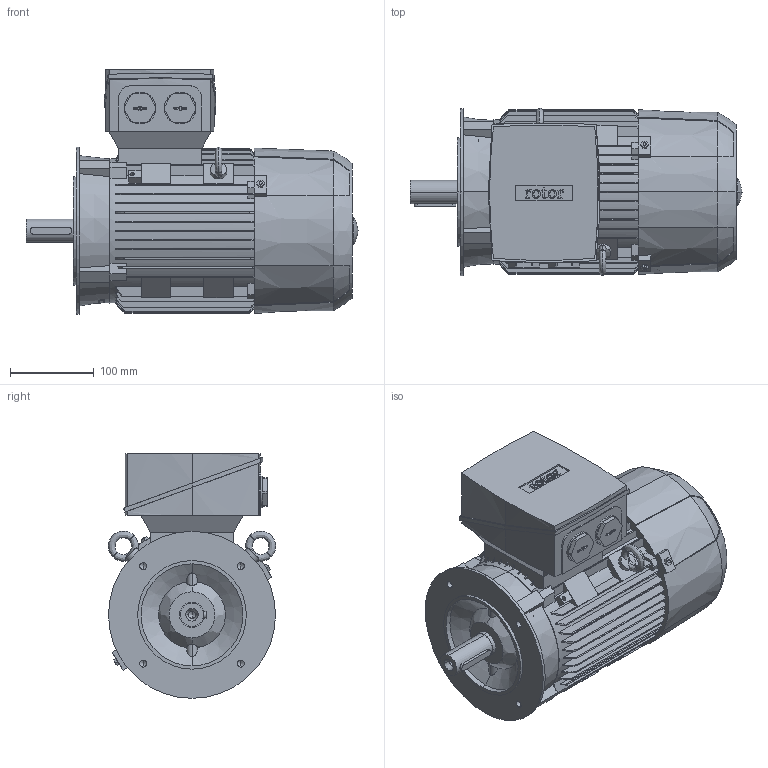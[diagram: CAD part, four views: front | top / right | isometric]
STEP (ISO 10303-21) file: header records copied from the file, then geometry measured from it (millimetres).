
FILE_DESCRIPTION (( 'STEP AP214' ), '1' );
FILE_NAME ('6RN100L02E14 IM3641-B.STEP', '2016-12-30T08:16:09', ( 'rbc_ict' ), ( 'Microsoft' ), 'SwSTEP 2.0', 'SolidWorks 2015', '' );
FILE_SCHEMA (( 'AUTOMOTIVE_DESIGN' ));
Length unit declared in the file: millimetre
Products named in the file (1): 6RN100L02E14 IM3641-B
Bounding box: 397.5 x 200.12 x 293 mm (x, y, z)
Volume: 10554470.6 mm3; surface area: 525849.7 mm2
Topology: 1 solids, 1 shells, 758 faces, 2102 edges, 1381 vertices
Faces by surface type: plane 422, bspline 154, cylinder 144, cone 38
Entity records: 36096 total; most frequent: CARTESIAN_POINT 10523, ORIENTED_EDGE 4180, DIRECTION 3227, EDGE_CURVE 2090, VERTEX_POINT 1381, LINE 1133, VECTOR 1133, AXIS2_PLACEMENT_3D 1047
